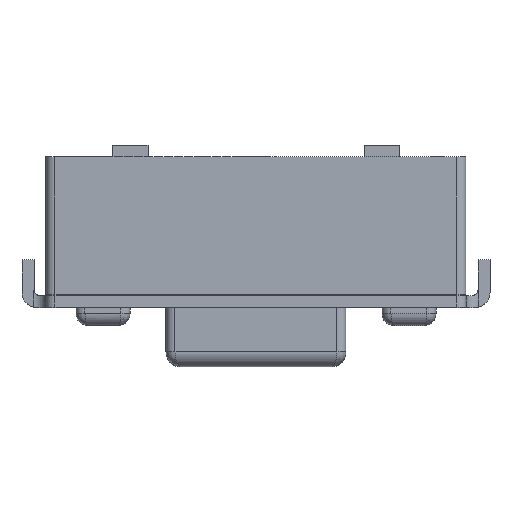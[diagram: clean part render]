
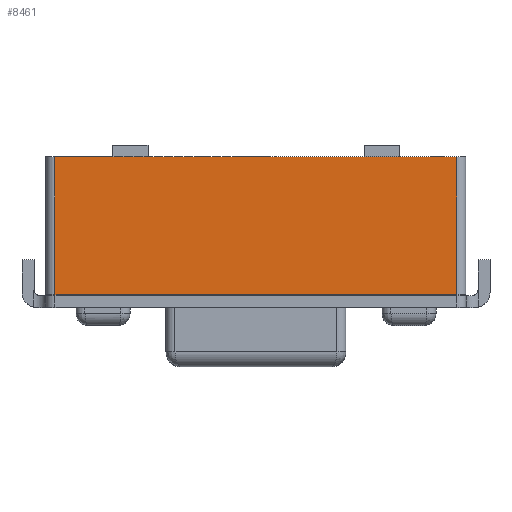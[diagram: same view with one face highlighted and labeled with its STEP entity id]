
A CAD part, top view. The second image highlights one B-rep face of the part: STEP entity #8461.
In plain terms, the highlighted planar face has unit normal (0, 0, 1).
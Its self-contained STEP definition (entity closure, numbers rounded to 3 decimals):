
#819 = LINE ( 'NONE', #13403, #16835 ) ;
#820 = DIRECTION ( 'NONE',  ( 0., -1., 0. ) ) ;
#1125 = VECTOR ( 'NONE', #17151, 1000. ) ;
#2899 = EDGE_CURVE ( 'NONE', #4056, #4740, #11027, .T. ) ;
#3156 = ORIENTED_EDGE ( 'NONE', *, *, #2899, .T. ) ;
#3396 = EDGE_CURVE ( 'NONE', #12497, #8668, #6438, .T. ) ;
#4056 = VERTEX_POINT ( 'NONE', #11219 ) ;
#4077 = PLANE ( 'NONE',  #20538 ) ;
#4404 = ORIENTED_EDGE ( 'NONE', *, *, #7441, .T. ) ;
#4740 = VERTEX_POINT ( 'NONE', #6198 ) ;
#6159 = DIRECTION ( 'NONE',  ( 0., 0., 1. ) ) ;
#6198 = CARTESIAN_POINT ( 'NONE',  ( 3.35, -0.59, 3.51 ) ) ;
#6438 = LINE ( 'NONE', #9599, #19865 ) ;
#7400 = ORIENTED_EDGE ( 'NONE', *, *, #3396, .T. ) ;
#7441 = EDGE_CURVE ( 'NONE', #4740, #12497, #819, .T. ) ;
#8461 = ADVANCED_FACE ( 'NONE', ( #12244 ), #4077, .T. ) ;
#8668 = VERTEX_POINT ( 'NONE', #11146 ) ;
#9599 = CARTESIAN_POINT ( 'NONE',  ( -3.5, 1.71, 3.51 ) ) ;
#10328 = ORIENTED_EDGE ( 'NONE', *, *, #14057, .T. ) ;
#11027 = LINE ( 'NONE', #14126, #1125 ) ;
#11146 = CARTESIAN_POINT ( 'NONE',  ( -3.35, 1.71, 3.51 ) ) ;
#11219 = CARTESIAN_POINT ( 'NONE',  ( -3.35, -0.59, 3.51 ) ) ;
#12244 = FACE_OUTER_BOUND ( 'NONE', #20107, .T. ) ;
#12497 = VERTEX_POINT ( 'NONE', #18392 ) ;
#13403 = CARTESIAN_POINT ( 'NONE',  ( 3.35, 1.71, 3.51 ) ) ;
#14057 = EDGE_CURVE ( 'NONE', #8668, #4056, #15184, .T. ) ;
#14126 = CARTESIAN_POINT ( 'NONE',  ( -3.5, -0.59, 3.51 ) ) ;
#15035 = VECTOR ( 'NONE', #820, 1000. ) ;
#15184 = LINE ( 'NONE', #16844, #15035 ) ;
#16835 = VECTOR ( 'NONE', #19758, 1000. ) ;
#16844 = CARTESIAN_POINT ( 'NONE',  ( -3.35, -0.59, 3.51 ) ) ;
#17117 = DIRECTION ( 'NONE',  ( 1., 0., 0. ) ) ;
#17151 = DIRECTION ( 'NONE',  ( 1., 0., 0. ) ) ;
#17293 = DIRECTION ( 'NONE',  ( -1., 0., 0. ) ) ;
#18392 = CARTESIAN_POINT ( 'NONE',  ( 3.35, 1.71, 3.51 ) ) ;
#19758 = DIRECTION ( 'NONE',  ( 0., 1., 0. ) ) ;
#19865 = VECTOR ( 'NONE', #17293, 1000. ) ;
#20107 = EDGE_LOOP ( 'NONE', ( #3156, #4404, #7400, #10328 ) ) ;
#20258 = CARTESIAN_POINT ( 'NONE',  ( 0., 0., 3.51 ) ) ;
#20538 = AXIS2_PLACEMENT_3D ( 'NONE', #20258, #6159, #17117 ) ;
